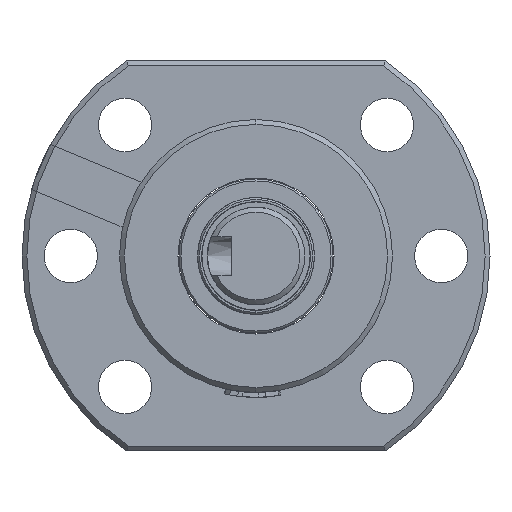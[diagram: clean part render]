
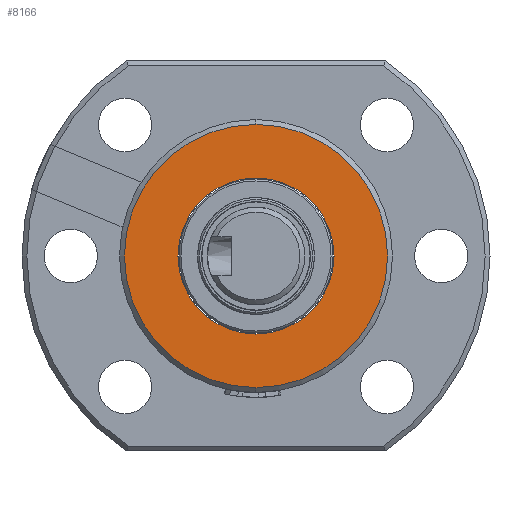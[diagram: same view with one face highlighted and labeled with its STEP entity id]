
A CAD part, left-side view. The second image highlights one B-rep face of the part: STEP entity #8166.
In plain terms, the highlighted planar face has unit normal (-1, 0, 0) as drawn and (1, 0, 0) by its records, which use the part's own axes.
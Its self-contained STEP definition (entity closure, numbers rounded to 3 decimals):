
#120 = DIRECTION ( 'NONE',  ( 0., 0., 1. ) ) ;
#340 = VERTEX_POINT ( 'NONE', #12220 ) ;
#345 = CARTESIAN_POINT ( 'NONE',  ( 45., 0., 0. ) ) ;
#514 = ORIENTED_EDGE ( 'NONE', *, *, #6373, .T. ) ;
#641 = DIRECTION ( 'NONE',  ( 0., 0., 1. ) ) ;
#838 = EDGE_CURVE ( 'NONE', #11266, #340, #2807, .T. ) ;
#1113 = CIRCLE ( 'NONE', #8575, 13.5 ) ;
#1716 = AXIS2_PLACEMENT_3D ( 'NONE', #16156, #12426, #641 ) ;
#2672 = EDGE_LOOP ( 'NONE', ( #514, #7873 ) ) ;
#2715 = VERTEX_POINT ( 'NONE', #8309 ) ;
#2807 = CIRCLE ( 'NONE', #1716, 8. ) ;
#3826 = CARTESIAN_POINT ( 'NONE',  ( 45., 14., 0. ) ) ;
#4287 = CARTESIAN_POINT ( 'NONE',  ( 45., 0., 0. ) ) ;
#4399 = EDGE_LOOP ( 'NONE', ( #15942, #16547 ) ) ;
#5205 = DIRECTION ( 'NONE',  ( -1., 0., 0. ) ) ;
#5222 = DIRECTION ( 'NONE',  ( 1., 0., 0. ) ) ;
#5319 = CARTESIAN_POINT ( 'NONE',  ( 45., 0., 0. ) ) ;
#6373 = EDGE_CURVE ( 'NONE', #340, #11266, #13552, .T. ) ;
#7454 = CARTESIAN_POINT ( 'NONE',  ( 45., 0., -8. ) ) ;
#7712 = EDGE_CURVE ( 'NONE', #2715, #17067, #16321, .T. ) ;
#7873 = ORIENTED_EDGE ( 'NONE', *, *, #838, .T. ) ;
#8166 = ADVANCED_FACE ( 'NONE', ( #10743, #11795 ), #11875, .F. ) ;
#8309 = CARTESIAN_POINT ( 'NONE',  ( 45., 0., -13.5 ) ) ;
#8575 = AXIS2_PLACEMENT_3D ( 'NONE', #5319, #13645, #120 ) ;
#9444 = DIRECTION ( 'NONE',  ( 0., 0., 1. ) ) ;
#9948 = EDGE_CURVE ( 'NONE', #17067, #2715, #1113, .T. ) ;
#10210 = AXIS2_PLACEMENT_3D ( 'NONE', #345, #10646, #16286 ) ;
#10502 = DIRECTION ( 'NONE',  ( 0., 0., 1. ) ) ;
#10646 = DIRECTION ( 'NONE',  ( -1., 0., 0. ) ) ;
#10743 = FACE_BOUND ( 'NONE', #2672, .T. ) ;
#11266 = VERTEX_POINT ( 'NONE', #7454 ) ;
#11795 = FACE_OUTER_BOUND ( 'NONE', #4399, .T. ) ;
#11875 = PLANE ( 'NONE',  #16044 ) ;
#12220 = CARTESIAN_POINT ( 'NONE',  ( 45., 0., 8. ) ) ;
#12251 = CARTESIAN_POINT ( 'NONE',  ( 45., 0., 13.5 ) ) ;
#12426 = DIRECTION ( 'NONE',  ( -1., 0., 0. ) ) ;
#12452 = AXIS2_PLACEMENT_3D ( 'NONE', #4287, #5222, #10502 ) ;
#13552 = CIRCLE ( 'NONE', #10210, 8. ) ;
#13645 = DIRECTION ( 'NONE',  ( 1., 0., 0. ) ) ;
#15942 = ORIENTED_EDGE ( 'NONE', *, *, #9948, .T. ) ;
#16044 = AXIS2_PLACEMENT_3D ( 'NONE', #3826, #5205, #9444 ) ;
#16156 = CARTESIAN_POINT ( 'NONE',  ( 45., 0., 0. ) ) ;
#16286 = DIRECTION ( 'NONE',  ( 0., 0., 1. ) ) ;
#16321 = CIRCLE ( 'NONE', #12452, 13.5 ) ;
#16547 = ORIENTED_EDGE ( 'NONE', *, *, #7712, .T. ) ;
#17067 = VERTEX_POINT ( 'NONE', #12251 ) ;
